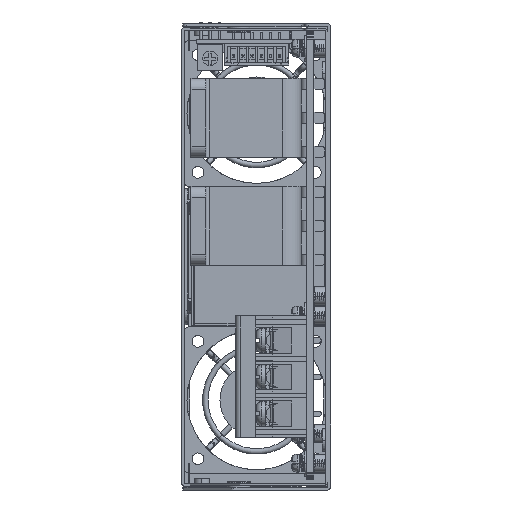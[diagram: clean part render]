
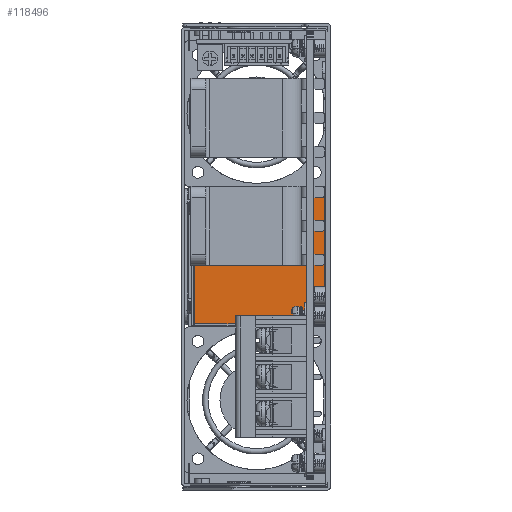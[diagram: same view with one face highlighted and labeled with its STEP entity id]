
A CAD part, left-side view. The second image highlights one B-rep face of the part: STEP entity #118496.
In plain terms, the highlighted planar face has unit normal (-1, 0, 0).
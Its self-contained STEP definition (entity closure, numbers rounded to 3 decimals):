
#30482=DIRECTION('',(0.,0.,-1.));
#30483=VECTOR('',#30482,36.44);
#30484=CARTESIAN_POINT('',(-35.663,53.79,
-57.78));
#30485=LINE('',#30484,#30483);
#35198=DIRECTION('',(0.,-1.,0.));
#35199=VECTOR('',#35198,35.28);
#35200=CARTESIAN_POINT('',(-35.663,53.79,
-94.22));
#35201=LINE('',#35200,#35199);
#35243=DIRECTION('',(0.,1.,0.));
#35244=VECTOR('',#35243,35.28);
#35245=CARTESIAN_POINT('',(-35.663,18.51,
-57.78));
#35246=LINE('',#35245,#35244);
#35255=DIRECTION('',(0.,0.,1.));
#35256=VECTOR('',#35255,36.44);
#35257=CARTESIAN_POINT('',(-35.663,18.51,
-94.22));
#35258=LINE('',#35257,#35256);
#56994=CARTESIAN_POINT('',(-35.663,18.51,
-94.22));
#56995=VERTEX_POINT('',#56994);
#56998=CARTESIAN_POINT('',(-35.663,53.79,
-94.22));
#56999=VERTEX_POINT('',#56998);
#57024=CARTESIAN_POINT('',(-35.663,53.79,
-57.78));
#57025=VERTEX_POINT('',#57024);
#57038=CARTESIAN_POINT('',(-35.663,18.51,
-57.78));
#57039=VERTEX_POINT('',#57038);
#118483=CARTESIAN_POINT('',(-35.663,17.65,
-94.65));
#118484=DIRECTION('',(1.,0.,0.));
#118485=DIRECTION('',(0.,0.,-1.));
#118486=AXIS2_PLACEMENT_3D('',#118483,#118484,#118485);
#118487=PLANE('',#118486);
#118488=ORIENTED_EDGE('',*,*,#118411,.F.);
#118489=ORIENTED_EDGE('',*,*,#109399,.F.);
#118491=ORIENTED_EDGE('',*,*,#118490,.F.);
#118493=ORIENTED_EDGE('',*,*,#118492,.F.);
#118494=EDGE_LOOP('',(#118488,#118489,#118491,#118493));
#118495=FACE_OUTER_BOUND('',#118494,.F.);
#118496=ADVANCED_FACE('',(#118495),#118487,.F.);
#109399=EDGE_CURVE('',#57025,#56999,#30485,.T.);
#118411=EDGE_CURVE('',#56999,#56995,#35201,.T.);
#118490=EDGE_CURVE('',#57039,#57025,#35246,.T.);
#118492=EDGE_CURVE('',#56995,#57039,#35258,.T.);
